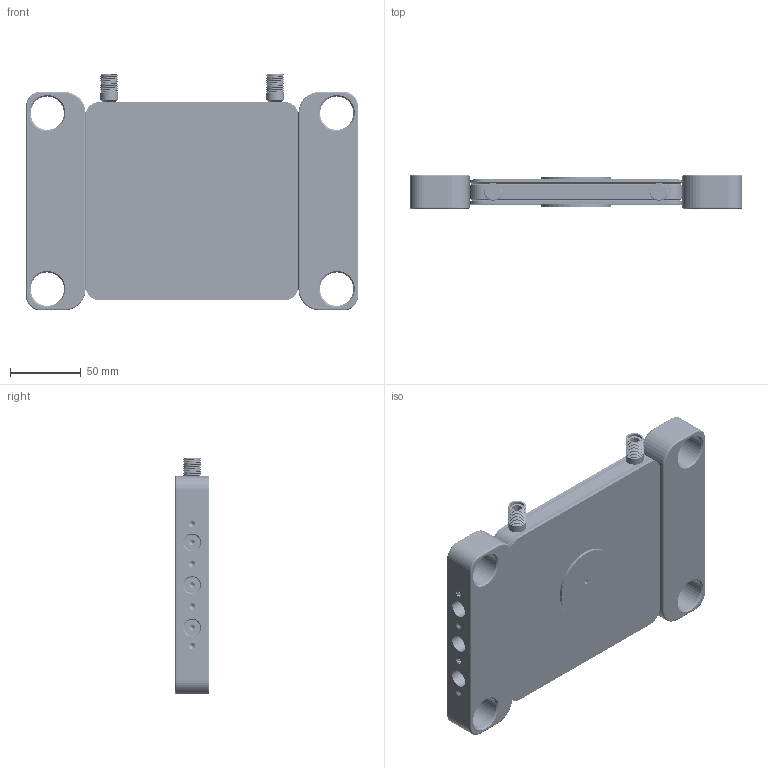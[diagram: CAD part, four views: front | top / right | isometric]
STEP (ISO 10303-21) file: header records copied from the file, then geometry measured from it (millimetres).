
FILE_DESCRIPTION (( 'STEP AP214' ), '1' );
FILE_NAME ('ÍÎÆ_90_ñ_ïëàñòèêîì.STEP', '2025-08-06T15:04:43', ( '' ), ( '' ), 'SwSTEP 2.0', 'SolidWorks 2024', '' );
FILE_SCHEMA (( 'AUTOMOTIVE_DESIGN' ));
Length unit declared in the file: millimetre
Products named in the file (8): пластик боковой; НОЖлого (1); крышка верхняя; кастомный_ниппель; корпус; НОЖ_90_с_пластиком; ЛИРАC (1); socket csink head cap screw 10642_din_EN ISO 10642 - M6 x 30 - 24N
Assembly tree (15 placements, depth 2):
  НОЖ_90_с_пластиком
    корпус
    кастомный_ниппель  x2
    крышка верхняя  x2
    пластик боковой  x2
    ЛИРАC (1)
    НОЖлого (1)
    socket csink head cap screw 10642_din_EN ISO 10642 - M6 x 30 - 24N  x6
Bounding box: 234 x 24.2 x 166.85 mm (x, y, z)
Volume: 526685.2 mm3; surface area: 234661 mm2
Topology: 15 solids, 15 shells, 1933 faces, 5199 edges, 3312 vertices
Faces by surface type: cylinder 1095, plane 614, cone 120, bspline 60, torus 44
Entity records: 64018 total; most frequent: CARTESIAN_POINT 35599, ORIENTED_EDGE 6474, DIRECTION 5401, EDGE_CURVE 3237, VERTEX_POINT 2090, AXIS2_PLACEMENT_3D 1862, LINE 1677, VECTOR 1677
